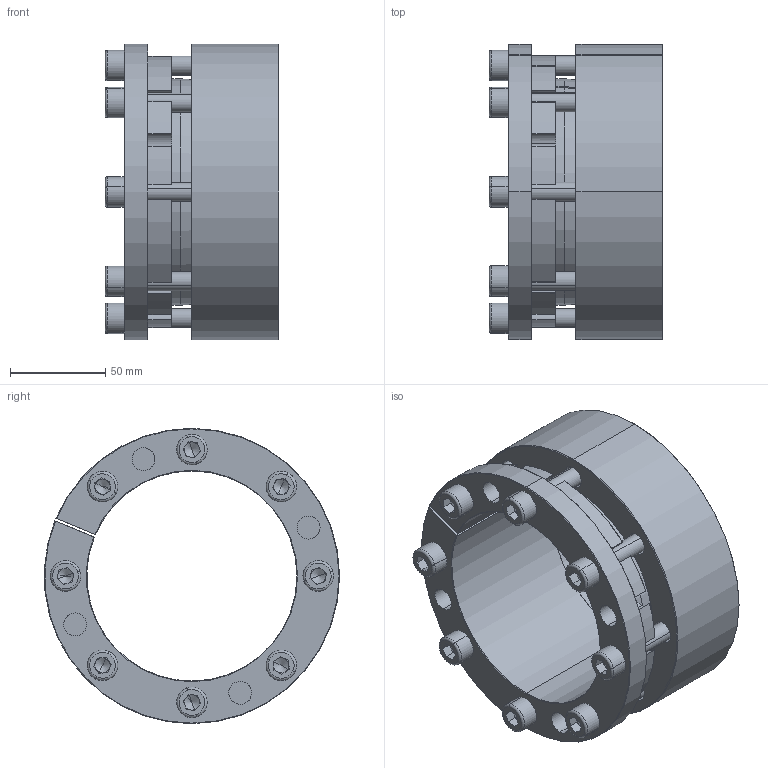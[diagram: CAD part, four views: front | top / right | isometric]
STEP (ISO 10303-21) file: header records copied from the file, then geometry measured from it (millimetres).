
FILE_DESCRIPTION (( 'STEP AP214' ), '1' );
FILE_NAME ('PL-H2 110-155.STEP', '2022-07-25T02:30:36', ( '' ), ( '' ), 'SwSTEP 2.0', 'SolidWorks 2022', '' );
FILE_SCHEMA (( 'AUTOMOTIVE_DESIGN' ));
Length unit declared in the file: millimetre
Products named in the file (1): PL-H2 110-155
Bounding box: 91.19 x 154.72 x 154.85 mm (x, y, z)
Volume: 596509.4 mm3; surface area: 138284 mm2
Topology: 1 solids, 1 shells, 319 faces, 815 edges, 502 vertices
Faces by surface type: plane 128, cylinder 97, cone 78, torus 16
Entity records: 9706 total; most frequent: DIRECTION 1770, CARTESIAN_POINT 1765, ORIENTED_EDGE 1598, EDGE_CURVE 799, AXIS2_PLACEMENT_3D 699, VERTEX_POINT 502, CIRCLE 379, VECTOR 372
